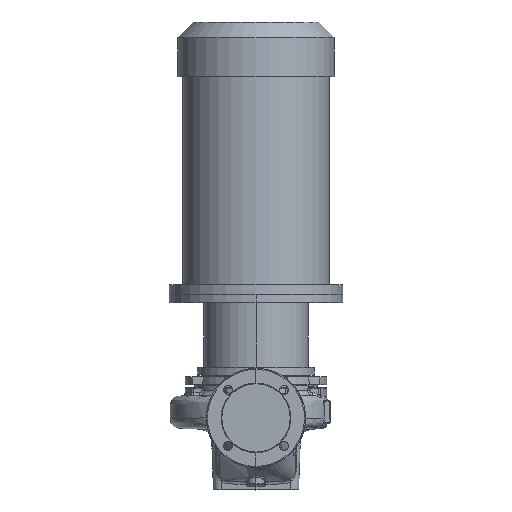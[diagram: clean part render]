
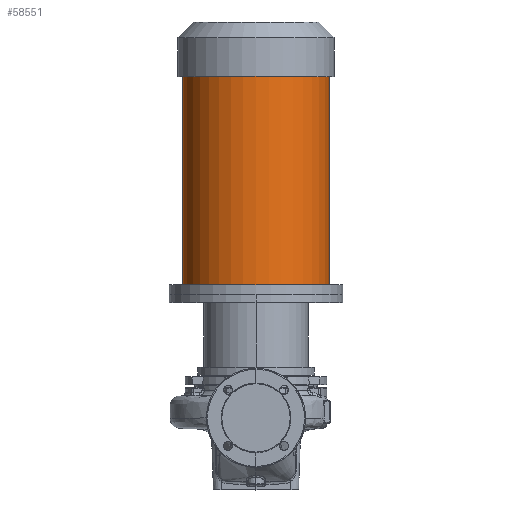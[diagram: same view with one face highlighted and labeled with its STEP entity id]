
A CAD part, top view. The second image highlights one B-rep face of the part: STEP entity #58551.
In plain terms, the highlighted cylindrical face has radius 147.5 mm (diameter 295 mm), a partial arc.
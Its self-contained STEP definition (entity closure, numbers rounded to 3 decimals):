
#3204 = DIRECTION ( 'NONE',  ( 0., -1., 0. ) ) ;
#5371 = DIRECTION ( 'NONE',  ( 0., -1., 0. ) ) ;
#6069 = CARTESIAN_POINT ( 'NONE',  ( 147.5, 249.3, 0. ) ) ;
#13759 = CYLINDRICAL_SURFACE ( 'NONE', #18731, 147.5 ) ;
#14996 = EDGE_CURVE ( 'NONE', #47186, #39616, #26197, .T. ) ;
#16198 = VERTEX_POINT ( 'NONE', #48132 ) ;
#16335 = LINE ( 'NONE', #38999, #52069 ) ;
#16949 = EDGE_CURVE ( 'NONE', #39616, #16198, #16335, .T. ) ;
#18731 = AXIS2_PLACEMENT_3D ( 'NONE', #37090, #3204, #53666 ) ;
#22391 = ORIENTED_EDGE ( 'NONE', *, *, #65883, .F. ) ;
#25418 = LINE ( 'NONE', #6069, #44630 ) ;
#26197 = CIRCLE ( 'NONE', #54064, 147.5 ) ;
#27958 = AXIS2_PLACEMENT_3D ( 'NONE', #45553, #67504, #34334 ) ;
#33646 = CARTESIAN_POINT ( 'NONE',  ( -147.5, 689.3, 0. ) ) ;
#33682 = VERTEX_POINT ( 'NONE', #55482 ) ;
#34334 = DIRECTION ( 'NONE',  ( -1., 0., 0. ) ) ;
#35769 = DIRECTION ( 'NONE',  ( 0., -1., 0. ) ) ;
#36521 = ORIENTED_EDGE ( 'NONE', *, *, #70525, .F. ) ;
#37090 = CARTESIAN_POINT ( 'NONE',  ( 0., 249.3, 0. ) ) ;
#38999 = CARTESIAN_POINT ( 'NONE',  ( -147.5, 249.3, 0. ) ) ;
#39244 = DIRECTION ( 'NONE',  ( 0., -1., 0. ) ) ;
#39616 = VERTEX_POINT ( 'NONE', #33646 ) ;
#41334 = DIRECTION ( 'NONE',  ( -1., 0., 0. ) ) ;
#44630 = VECTOR ( 'NONE', #39244, 1000. ) ;
#45553 = CARTESIAN_POINT ( 'NONE',  ( 0., 269.3, 0. ) ) ;
#47186 = VERTEX_POINT ( 'NONE', #56605 ) ;
#48132 = CARTESIAN_POINT ( 'NONE',  ( -147.5, 269.3, 0. ) ) ;
#51916 = ORIENTED_EDGE ( 'NONE', *, *, #16949, .T. ) ;
#52069 = VECTOR ( 'NONE', #5371, 1000. ) ;
#53564 = CIRCLE ( 'NONE', #27958, 147.5 ) ;
#53666 = DIRECTION ( 'NONE',  ( -1., 0., 0. ) ) ;
#53779 = EDGE_LOOP ( 'NONE', ( #36521, #58895, #51916, #22391 ) ) ;
#54064 = AXIS2_PLACEMENT_3D ( 'NONE', #68923, #35769, #41334 ) ;
#55482 = CARTESIAN_POINT ( 'NONE',  ( 147.5, 269.3, 0. ) ) ;
#56605 = CARTESIAN_POINT ( 'NONE',  ( 147.5, 689.3, 0. ) ) ;
#58551 = ADVANCED_FACE ( 'NONE', ( #70518 ), #13759, .T. ) ;
#58895 = ORIENTED_EDGE ( 'NONE', *, *, #14996, .T. ) ;
#65883 = EDGE_CURVE ( 'NONE', #33682, #16198, #53564, .T. ) ;
#67504 = DIRECTION ( 'NONE',  ( 0., -1., 0. ) ) ;
#68923 = CARTESIAN_POINT ( 'NONE',  ( 0., 689.3, 0. ) ) ;
#70518 = FACE_OUTER_BOUND ( 'NONE', #53779, .T. ) ;
#70525 = EDGE_CURVE ( 'NONE', #47186, #33682, #25418, .T. ) ;
